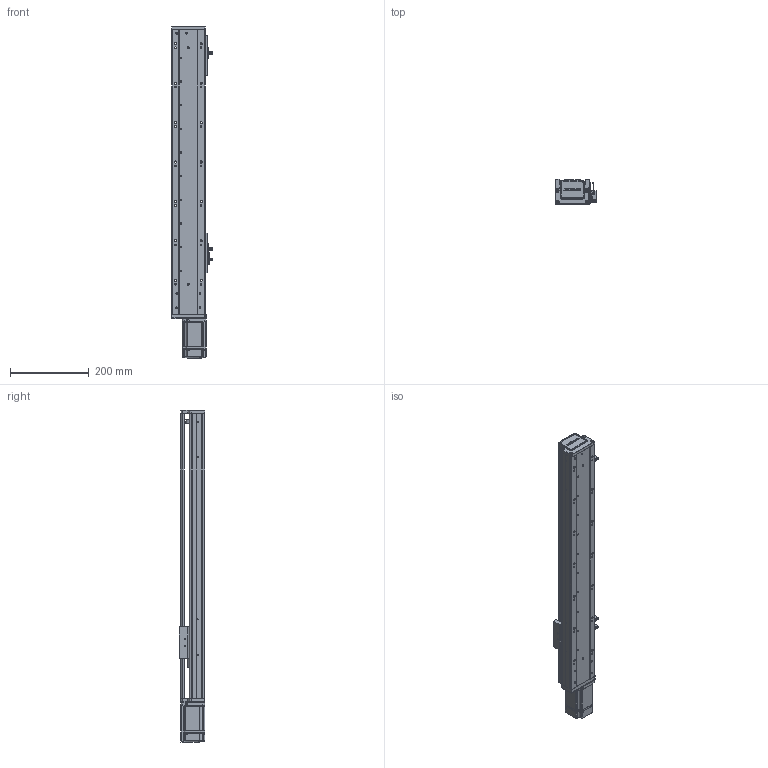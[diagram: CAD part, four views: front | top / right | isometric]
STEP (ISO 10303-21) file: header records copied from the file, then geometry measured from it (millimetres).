
FILE_DESCRIPTION (( 'STEP AP203' ), '1' );
FILE_NAME ('RY80-L1620-300-MK.SLDASM_500.step', '2021-02-20T02:33:17', ( '' ), ( '' ), 'SwSTEP 2.0', 'SolidWorks 2012', '' );
FILE_SCHEMA (( 'CONFIG_CONTROL_DESIGN' ));
Length unit declared in the file: millimetre
Products named in the file (14): RY80-L1620-300-MK.SLDASM_500; 滅袉蝶18-24; RY80前盖板(100W电机 PCD46 M4); RY80綴裔啣; RY80俋离覜茼え; 672嫖萇羲壽假蚾釱; 覜茼ん672; 滅袉蝶18-10; 侂狟200W萇儂; 1; RY80臏賑輸; RY80-300-MK倰第奻裔啣_500; RY80前盖板(200W电机)M4; RY80-300-MK倰第菁釱_500
Assembly tree (16 placements, depth 3):
  RY80-L1620-300-MK.SLDASM_500
    RY80-300-MK倰第菁釱_500
    RY80臏賑輸
    RY80-300-MK倰第奻裔啣_500
    RY80前盖板(200W电机)M4
    侂狟200W萇儂
      1
    滅袉蝶18-10
    672嫖萇羲壽假蚾釱  x2
    覜茼ん672  x3
    RY80俋离覜茼え
    滅袉蝶18-24
    RY80綴裔啣
    RY80前盖板(100W电机 PCD46 M4)
Bounding box: 103.7 x 65 x 842 mm (x, y, z)
Volume: 1504297.5 mm3; surface area: 553554.8 mm2
Topology: 15 solids, 15 shells, 2052 faces, 5666 edges, 3689 vertices
Faces by surface type: plane 1117, cylinder 752, cone 129, bspline 54
Entity records: 65065 total; most frequent: CARTESIAN_POINT 16553, ORIENTED_EDGE 10072, DIRECTION 9371, EDGE_CURVE 5036, VERTEX_POINT 3305, AXIS2_PLACEMENT_3D 3145, VECTOR 3081, LINE 3081
